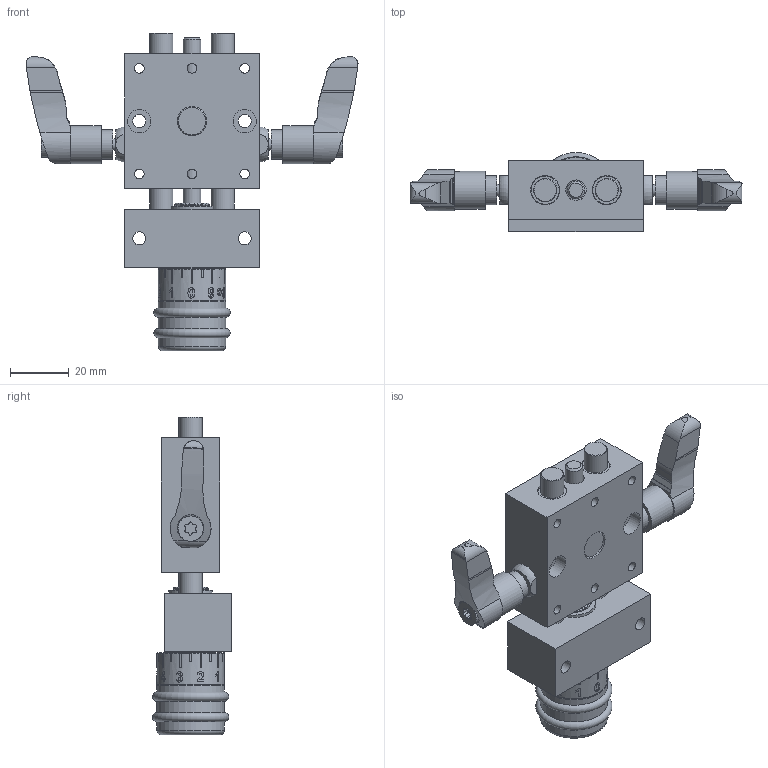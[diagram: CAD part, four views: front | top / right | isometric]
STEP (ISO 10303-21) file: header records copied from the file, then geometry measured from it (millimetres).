
FILE_DESCRIPTION (( 'STEP AP214' ), '1' );
FILE_NAME ('PT1408-SK-2KH-Positioniertisch.STEP', '2023-11-20T15:51:13', ( '' ), ( '' ), 'SwSTEP 2.0', 'SolidWorks 2019', '' );
FILE_SCHEMA (( 'AUTOMOTIVE_DESIGN' ));
Length unit declared in the file: millimetre
Products named in the file (3): PT1408-SK-2KH-Positioniertisch; PT08-000-22-Schlitten-komplett-2KH; PT1408-000-01-Festteil-SK
Assembly tree (2 placements, depth 2):
  PT1408-SK-2KH-Positioniertisch
    PT1408-000-01-Festteil-SK
    PT08-000-22-Schlitten-komplett-2KH
Bounding box: 113.34 x 27.02 x 108.39 mm (x, y, z)
Volume: 80587.5 mm3; surface area: 35138.5 mm2
Topology: 2 solids, 7 shells, 560 faces, 1403 edges, 926 vertices
Faces by surface type: plane 223, cylinder 172, bspline 102, cone 49, torus 13, sphere 1
Full cylindrical faces by diameter (mm): 2.05 x2, 2.5 x1, 3.3 x9, 4 x4, 4.5 x4, 5 x2, 5.6 x1, 6 x3, 6.25 x1, 6.4 x2, 6.6 x2, 7 x5, 7.6 x2, 7.8 x1, 8 x14, 8.6 x4, 9.5 x1, 9.7 x2, 9.98 x6, 10 x5, 10.5 x2, 11.5 x1, 12 x2, 13 x3, 15.8 x1, 16.4 x5, 19.8 x1, 23 x4
Entity records: 31868 total; most frequent: CARTESIAN_POINT 20152, ORIENTED_EDGE 2386, DIRECTION 1997, EDGE_CURVE 1193, VERTEX_POINT 860, AXIS2_PLACEMENT_3D 822, EDGE_LOOP 817, FACE_OUTER_BOUND 660
